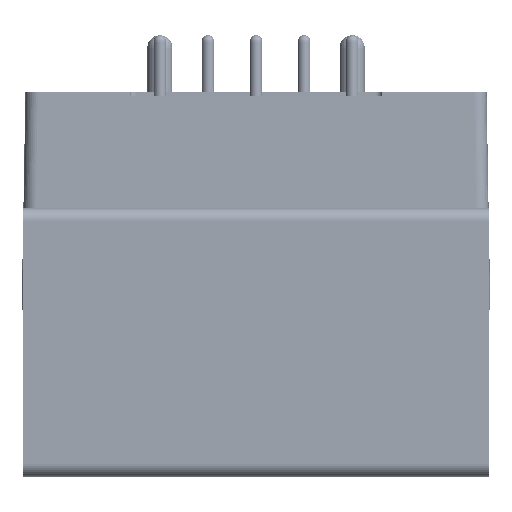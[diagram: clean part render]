
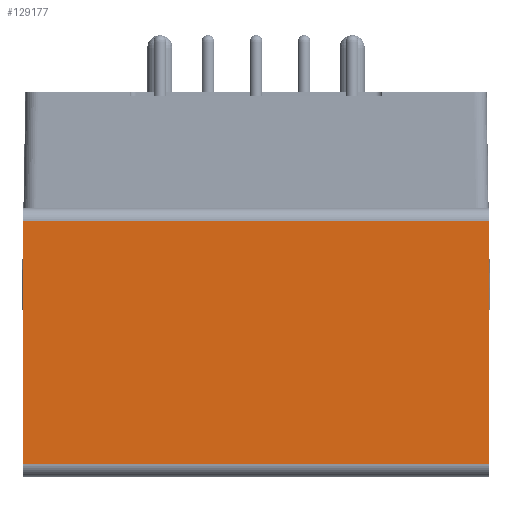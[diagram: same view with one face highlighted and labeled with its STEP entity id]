
A CAD part, left-side view. The second image highlights one B-rep face of the part: STEP entity #129177.
In plain terms, the highlighted planar face has unit normal (-1, 0, 0) as drawn and (1, 0, 0) by its records, which use the part's own axes.
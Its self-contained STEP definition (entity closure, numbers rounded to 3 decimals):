
#20612=PLANE($,#142702);
#28328=FACE_OUTER_BOUND($,#36885,.T.);
#36885=EDGE_LOOP($,(#120080,#120081,#120082,#120083));
#45257=LINE($,#236343,#53622);
#45258=LINE($,#236347,#53623);
#45259=LINE($,#236349,#53624);
#45260=LINE($,#236350,#53625);
#53622=VECTOR($,#177791,37.);
#53623=VECTOR($,#177796,19.2);
#53624=VECTOR($,#177797,37.);
#53625=VECTOR($,#177798,19.2);
#65738=VERTEX_POINT($,#236340);
#65739=VERTEX_POINT($,#236342);
#65740=VERTEX_POINT($,#236346);
#65741=VERTEX_POINT($,#236348);
#82877=EDGE_CURVE($,#65739,#65738,#45257,.T.);
#82879=EDGE_CURVE($,#65738,#65740,#45258,.T.);
#82880=EDGE_CURVE($,#65741,#65740,#45259,.T.);
#82881=EDGE_CURVE($,#65739,#65741,#45260,.T.);
#120080=ORIENTED_EDGE($,*,*,#82879,.T.);
#120081=ORIENTED_EDGE($,*,*,#82880,.F.);
#120082=ORIENTED_EDGE($,*,*,#82881,.F.);
#120083=ORIENTED_EDGE($,*,*,#82877,.T.);
#129177=ADVANCED_FACE($,(#28328),#20612,.F.);
#142702=AXIS2_PLACEMENT_3D($,#236345,#177794,#177795);
#177791=DIRECTION($,(0.,0.,-1.));
#177794=DIRECTION('center_axis',(-1.,0.,0.));
#177795=DIRECTION('ref_axis',(0.,0.,1.));
#177796=DIRECTION($,(0.,1.,0.));
#177797=DIRECTION($,(0.,0.,-1.));
#177798=DIRECTION($,(0.,1.,0.));
#236340=CARTESIAN_POINT('',(31.6,-7.55,-18.5));
#236342=CARTESIAN_POINT('',(31.6,-7.55,18.5));
#236343=CARTESIAN_POINT($,(31.6,-7.55,18.5));
#236345=CARTESIAN_POINT('Origin',(31.6,11.65,18.5));
#236346=CARTESIAN_POINT('',(31.6,11.65,-18.5));
#236347=CARTESIAN_POINT($,(31.6,11.65,-18.5));
#236348=CARTESIAN_POINT('',(31.6,11.65,18.5));
#236349=CARTESIAN_POINT($,(31.6,11.65,18.5));
#236350=CARTESIAN_POINT($,(31.6,11.65,18.5));
